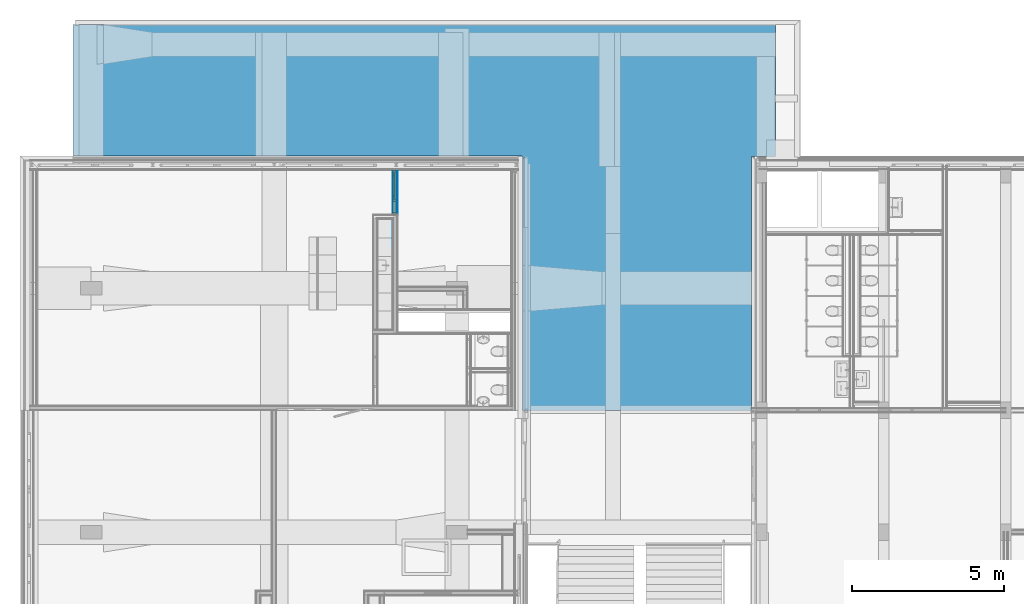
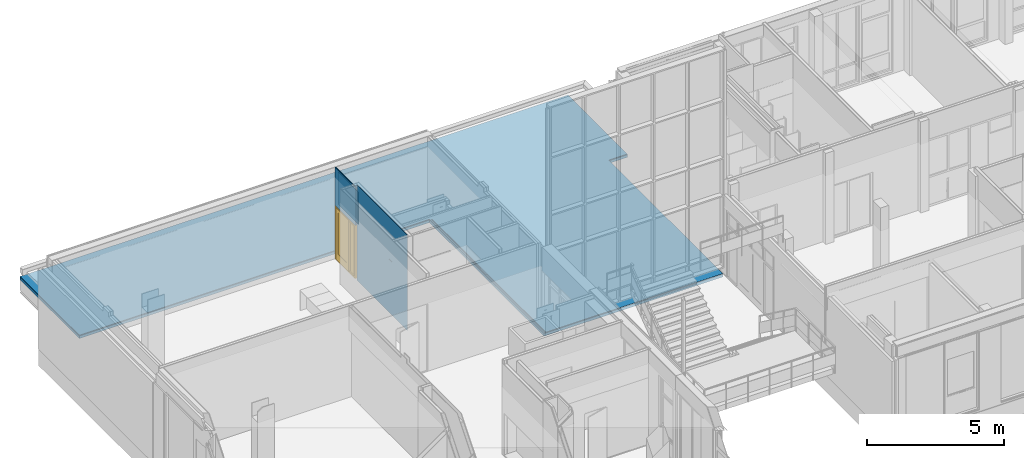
# One storey, part 48 of 94: 8 building element parts, 1 door, 1 opening, 3 elements without a shape of their own.
"""IFC2X3 building model written with IfcOpenShell, lengths in millimetres."""

from ifc_helpers import new_model, entity, si_unit, converted_unit, derived_unit, money_unit, direction, frame, origin_with_axes, place, context, subcontext, project, spatial, open_shell, faceted_brep, surface_model, material, type_object, element, fill, aggregate, save


model = new_model("IFC2X3")

# Units and contexts
model_context = context("Model", 3, precision=0.01, world=origin_with_axes(), true_north=direction((0.0, 1.0)))
body_context = subcontext(model_context, "Body", "Model", "MODEL_VIEW")
ifc_project = project(units=[si_unit("LENGTHUNIT", "METRE", prefix="MILLI"), si_unit("AREAUNIT", "SQUARE_METRE"), si_unit("VOLUMEUNIT", "CUBIC_METRE"), converted_unit("PLANEANGLEUNIT", "DEGREE", entity("IfcPlaneAngleMeasure", 0.0174532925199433), si_unit("PLANEANGLEUNIT", "RADIAN"), dimensions=[0, 0, 0, 0, 0, 0, 0]), money_unit("EUR"), converted_unit("TIMEUNIT", "Year", entity("IfcTimeMeasure", 31557600.0), si_unit("TIMEUNIT", "SECOND"), dimensions=[0, 0, 1, 0, 0, 0, 0]), si_unit("MASSUNIT", "GRAM", prefix="KILO"), si_unit("THERMODYNAMICTEMPERATUREUNIT", "DEGREE_CELSIUS"), si_unit("LUMINOUSINTENSITYUNIT", "LUMEN"), si_unit("ENERGYUNIT", "JOULE", prefix="MEGA"), derived_unit("THERMALCONDUCTANCEUNIT", [(si_unit("POWERUNIT", "WATT"), 1), (si_unit("LENGTHUNIT", "METRE"), -1), (si_unit("THERMODYNAMICTEMPERATUREUNIT", "KELVIN"), -1)]), derived_unit("SPECIFICHEATCAPACITYUNIT", [(si_unit("ENERGYUNIT", "JOULE"), 1), (si_unit("MASSUNIT", "GRAM", prefix="KILO"), -1), (si_unit("THERMODYNAMICTEMPERATUREUNIT", "KELVIN"), -1)]), derived_unit("MASSDENSITYUNIT", [(si_unit("MASSUNIT", "GRAM", prefix="KILO"), 1), (si_unit("VOLUMEUNIT", "CUBIC_METRE"), -1)])], contexts=[model_context])

# Site, building, storey
site_placement = place(None, origin_with_axes())
site = spatial("IfcSite", under=ifc_project, at=site_placement, Name="<site naam>", CompositionType="ELEMENT")
building_placement = place(site_placement, origin_with_axes())
building = spatial("IfcBuilding", under=site, at=building_placement, Name="<Naam gebouw>", CompositionType="ELEMENT")
storey_placement = place(building_placement, frame((0.0, 0.0, 4250.0), z_axis=(0.0, 0.0, 1.0), x_axis=(1.0, 0.0, 0.0)))
storey = spatial("IfcBuildingStorey", under=building, at=storey_placement, Name="01 1e verdieping", CompositionType="ELEMENT", Elevation=4250.0)

# Door
door_style = type_object("IfcDoorStyle", Name="D1 zl1-b 27", ConstructionType="NOTDEFINED", OperationType="SINGLE_SWING_RIGHT", ParameterTakesPrecedence=False, Sizeable=False)
wall_1_placement = place(storey_placement, frame((49.44245921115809, 19883.99999999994, 0.0), z_axis=(0.0, 0.0, 1.0), x_axis=(0.0, -1.0, 0.0)))
opening_placement = place(wall_1_placement, frame((733.2551979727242, 0.0, 0.0), z_axis=(0.0, 0.0, 1.0), x_axis=(1.0, 0.0, 0.0)))
door_placement = place(opening_placement, frame((733.2551979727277, 0.0, 0.0), z_axis=(0.0, 0.0, 1.0), x_axis=(-1.0, 0.0, 0.0)))
door = element("IfcDoor", 1, at=door_placement, inside=storey, type_object=door_style, Name="22_BI-C-03_305", ObjectType="DOOR", OverallHeight=2367.0, OverallWidth=1466.51, context=body_context, shape_type="SurfaceModel", body=[
    faceted_brep([(482.5103959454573, 120.0, 12.00000000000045), (499.5103959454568, 120.0, 12.00000000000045), (499.5103959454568, 45.99999999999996, 12.00000000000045), (1399.510395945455, 45.99999999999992, 11.99999999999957), (1399.510395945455, 119.9999999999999, 11.99999999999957), (1416.510395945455, 119.9999999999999, 11.99999999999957), (1416.510395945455, 159.9999999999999, 11.99999999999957), (482.5103959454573, 160.0, 12.00000000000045), (482.5103959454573, 120.0, 0.0), (499.5103959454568, 120.0, 0.0), (499.5103959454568, 45.99999999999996, 0.0), (1399.510395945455, 45.99999999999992, 0.0), (1399.510395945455, 119.9999999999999, 0.0), (1416.510395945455, 119.9999999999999, 0.0), (1416.510395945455, 159.9999999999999, 0.0), (482.5103959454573, 160.0, 0.0)], [[[0, 1, 2, 3, 4, 5, 6, 7]], [[1, 0, 8, 9]], [[10, 2, 1, 9]], [[2, 10, 11, 3]], [[3, 11, 12, 4]], [[5, 4, 12, 13]], [[13, 14, 6, 5]], [[15, 7, 6, 14]], [[8, 0, 7, 15]], [[9, 8, 15, 14, 13, 12, 11, 10]]]),
    faceted_brep([(0.0, 160.0000000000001, 0.0), (67.00000000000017, 160.0000000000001, 0.0), (67.00000000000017, 46.00000000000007, 0.0), (0.0, 46.00000000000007, 0.0), (0.0, 159.9999999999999, 2300.0), (67.00000000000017, 159.9999999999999, 2300.0), (67.00000000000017, 160.0000000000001, 67.00000000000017), (67.00000000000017, 46.00000000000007, 67.00000000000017), (67.00000000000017, 45.99999999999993, 2300.0), (0.0, 45.99999999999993, 2300.0)], [[[0, 1, 2, 3]], [[0, 4, 5, 6, 1]], [[1, 6, 7, 2]], [[3, 2, 7, 8, 9]], [[4, 0, 3, 9]], [[5, 4, 9, 8]], [[6, 5, 8, 7]]]),
    faceted_brep([(499.5103959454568, 105.0, 0.0), (499.5103959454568, 104.9999999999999, 2300.0), (499.5103959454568, 45.99999999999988, 2300.0), (499.5103959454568, 46.00000000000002, 0.0), (482.5103959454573, 104.9999999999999, 2300.0), (482.5103959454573, 105.0, 0.0), (482.5103959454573, 159.9999999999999, 2300.0), (432.5103959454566, 159.9999999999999, 2300.0), (432.5103959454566, 45.99999999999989, 2300.0), (432.5103959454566, 46.00000000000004, 0.0), (432.5103959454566, 46.00000000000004, 67.00000000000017), (432.5103959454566, 160.0, 0.0), (482.5103959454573, 160.0, 0.0), (432.5103959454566, 160.0, 67.00000000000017)], [[[0, 1, 2, 3]], [[4, 1, 0, 5]], [[4, 6, 7, 8, 2, 1]], [[9, 3, 2, 8, 10]], [[5, 0, 3, 9, 11, 12]], [[6, 4, 5, 12]], [[6, 12, 11, 13, 7]], [[13, 10, 8, 7]], [[11, 9, 10, 13]]]),
    faceted_brep([(67.00000000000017, 160.0000000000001, 67.00000000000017), (67.00000000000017, 160.0000000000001, 0.0), (67.00000000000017, 46.00000000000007, 0.0), (67.00000000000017, 46.00000000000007, 67.00000000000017), (432.5103959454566, 160.0, 67.00000000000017), (432.5103959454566, 160.0, 0.0), (432.5103959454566, 46.00000000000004, 0.0), (432.5103959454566, 46.00000000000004, 67.00000000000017)], [[[0, 1, 2, 3]], [[0, 4, 5, 1]], [[1, 5, 6, 2]], [[3, 2, 6, 7]], [[4, 0, 3, 7]], [[5, 4, 7, 6]]]),
    faceted_brep([(1416.510395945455, 104.9999999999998, 2300.0), (1399.510395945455, 104.9999999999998, 2300.0), (1399.510395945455, 45.99999999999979, 2300.0), (1466.510395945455, 45.99999999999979, 2300.0), (1466.510395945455, 159.9999999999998, 2300.0), (1416.510395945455, 159.9999999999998, 2300.0), (1416.510395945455, 104.9999999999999, 0.0), (1399.510395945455, 104.9999999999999, 0.0), (1399.510395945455, 45.99999999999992, 0.0), (1466.510395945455, 45.99999999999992, 0.0), (1466.510395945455, 159.9999999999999, 0.0), (1416.510395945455, 159.9999999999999, 0.0)], [[[0, 1, 2, 3, 4, 5]], [[1, 0, 6, 7]], [[1, 7, 8, 2]], [[3, 2, 8, 9]], [[4, 3, 9, 10]], [[11, 5, 4, 10]], [[0, 5, 11, 6]], [[6, 11, 10, 9, 8, 7]]]),
    faceted_brep([(482.5103959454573, 159.9999999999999, 2317.0), (482.5103959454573, 159.9999999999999, 2300.0), (432.5103959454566, 159.9999999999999, 2300.0), (67.00000000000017, 159.9999999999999, 2300.0), (0.0, 159.9999999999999, 2300.0), (0.0, 159.9999999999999, 2367.0), (1466.510395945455, 159.9999999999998, 2367.0), (1466.510395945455, 159.9999999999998, 2300.0), (1416.510395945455, 159.9999999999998, 2300.0), (1416.510395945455, 159.9999999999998, 2317.0), (482.5103959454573, 104.9999999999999, 2317.0), (482.5103959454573, 104.9999999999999, 2300.0), (1399.510395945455, 104.9999999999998, 2300.0), (1399.510395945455, 45.99999999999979, 2300.0), (499.5103959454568, 45.99999999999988, 2300.0), (432.5103959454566, 45.99999999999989, 2300.0), (67.00000000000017, 45.99999999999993, 2300.0), (0.0, 45.99999999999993, 2300.0), (0.0, 45.99999999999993, 2367.0), (1466.510395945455, 45.99999999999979, 2367.0), (1466.510395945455, 45.99999999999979, 2300.0), (1416.510395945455, 104.9999999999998, 2300.0), (1416.510395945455, 104.9999999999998, 2317.0)], [[[0, 1, 2, 3, 4, 5, 6, 7, 8, 9]], [[1, 0, 10, 11]], [[11, 12, 13, 14, 15, 2, 1]], [[2, 15, 16, 3]], [[3, 16, 17, 4]], [[4, 17, 18, 5]], [[5, 18, 19, 6]], [[6, 19, 20, 7]], [[21, 8, 7, 20, 13, 12]], [[9, 8, 21, 22]], [[0, 9, 22, 10]], [[21, 12, 11, 10, 22]], [[13, 20, 19, 18, 17, 16, 15, 14]]]),
    faceted_brep([(1416.510395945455, 144.9999999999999, 312.0000000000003), (1416.510395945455, 104.9999999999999, 312.0000000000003), (1266.510395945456, 104.9999999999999, 312.0000000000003), (1266.510395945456, 144.9999999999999, 312.0000000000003), (1416.510395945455, 144.9999999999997, 2167.0), (1416.510395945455, 104.9999999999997, 2167.0), (1266.510395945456, 104.9999999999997, 2167.0), (1266.510395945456, 144.9999999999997, 2167.0)], [[[0, 1, 2, 3]], [[4, 5, 1, 0]], [[1, 5, 6, 2]], [[3, 2, 6, 7]], [[0, 3, 7, 4]], [[7, 6, 5, 4]]]),
    faceted_brep([(482.5103959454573, 145.0, 312.0000000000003), (482.5103959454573, 105.0, 312.0000000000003), (482.5103959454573, 104.9999999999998, 2167.0), (482.5103959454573, 144.9999999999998, 2167.0), (632.5103959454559, 145.0, 312.0000000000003), (632.5103959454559, 105.0, 312.0000000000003), (632.5103959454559, 104.9999999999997, 2167.0), (632.5103959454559, 144.9999999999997, 2167.0)], [[[0, 1, 2, 3]], [[4, 5, 1, 0]], [[1, 5, 6, 2]], [[3, 2, 6, 7]], [[0, 3, 7, 4]], [[7, 6, 5, 4]]]),
    faceted_brep([(1416.510395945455, 144.9999999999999, 11.99999999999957), (1416.510395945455, 104.9999999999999, 11.99999999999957), (482.5103959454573, 105.0, 11.99999999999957), (482.5103959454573, 145.0000000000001, 11.99999999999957), (1416.510395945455, 144.9999999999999, 312.0000000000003), (1416.510395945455, 104.9999999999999, 312.0000000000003), (1266.510395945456, 104.9999999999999, 312.0000000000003), (632.5103959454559, 105.0, 312.0000000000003), (482.5103959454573, 105.0, 312.0000000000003), (482.5103959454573, 145.0, 312.0000000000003), (632.5103959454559, 145.0, 312.0000000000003), (1266.510395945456, 144.9999999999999, 312.0000000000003)], [[[0, 1, 2, 3]], [[4, 5, 1, 0]], [[1, 5, 6, 7, 8, 2]], [[3, 2, 8, 9]], [[0, 3, 9, 10, 11, 4]], [[11, 6, 5, 4]], [[10, 7, 6, 11]], [[9, 8, 7, 10]]]),
    faceted_brep([(1416.510395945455, 144.9999999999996, 2317.0), (1416.510395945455, 104.9999999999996, 2317.0), (1416.510395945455, 104.9999999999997, 2167.0), (1416.510395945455, 144.9999999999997, 2167.0), (482.5103959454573, 144.9999999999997, 2317.0), (482.5103959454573, 104.9999999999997, 2317.0), (482.5103959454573, 104.9999999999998, 2167.0), (632.5103959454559, 104.9999999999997, 2167.0), (1266.510395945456, 104.9999999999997, 2167.0), (1266.510395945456, 144.9999999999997, 2167.0), (632.5103959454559, 144.9999999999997, 2167.0), (482.5103959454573, 144.9999999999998, 2167.0)], [[[0, 1, 2, 3]], [[4, 5, 1, 0]], [[1, 5, 6, 7, 8, 2]], [[3, 2, 8, 9]], [[0, 3, 9, 10, 11, 4]], [[11, 6, 5, 4]], [[10, 7, 6, 11]], [[9, 8, 7, 10]]]),
    surface_model("IfcShellBasedSurfaceModel", [(1266.510395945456, 130.9999999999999, 312.0000000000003), (632.5103959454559, 131.0, 312.0000000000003), (632.5103959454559, 130.9999999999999, 2167.0), (1266.510395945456, 130.9999999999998, 2167.0)], [open_shell([[[0, 1, 2, 3]]])]),
    surface_model("IfcShellBasedSurfaceModel", [(1266.510395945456, 118.9999999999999, 312.0000000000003), (1266.510395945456, 118.9999999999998, 2167.0), (632.5103959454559, 118.9999999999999, 2167.0), (632.5103959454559, 119.0, 312.0000000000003)], [open_shell([[[0, 1, 2, 3]]])]),
    surface_model("IfcShellBasedSurfaceModel", [(67.00000000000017, 106.0000000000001, 67.00000000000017), (67.00000000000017, 105.9999999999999, 2300.000000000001), (432.5103959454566, 105.9999999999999, 2300.000000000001), (432.5103959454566, 106.0, 67.00000000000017)], [open_shell([[[0, 1, 2, 3]]])]),
    surface_model("IfcShellBasedSurfaceModel", [(67.00000000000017, 94.00000000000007, 67.00000000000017), (432.5103959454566, 94.00000000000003, 67.00000000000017), (432.5103959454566, 93.99999999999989, 2300.000000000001), (67.00000000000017, 93.99999999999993, 2300.000000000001)], [open_shell([[[0, 1, 2, 3]]])]),
])

# Wall, opening
wall_type = type_object("IfcWallType", Name="MS-01 GF 150 ECO DGS/2.100.2.A 150", PredefinedType="NOTDEFINED")
wall_1 = element("IfcWall", 2, at=wall_1_placement, inside=storey, type_object=wall_type, Name="22_Binnenwand_MS-01")
opening = element("IfcOpeningElement", 3, at=opening_placement, cuts=wall_1, Name="22_BI-C-03_305", context=body_context, shape_type="Brep", body=[
    faceted_brep([(733.2551979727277, 1.000000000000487, 2367.0), (733.2551979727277, 1.000000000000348, 0.0), (-733.2551979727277, 1.000000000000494, 0.0), (-733.2551979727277, 1.000000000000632, 2367.0), (733.2551979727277, -151.0000000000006, 2367.0), (733.2551979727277, -151.0000000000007, 0.0), (-733.2551979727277, -151.0000000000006, 0.0), (-733.2551979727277, -151.0000000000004, 2367.0)], [[[0, 1, 2, 3]], [[4, 5, 1, 0]], [[5, 6, 2, 1]], [[6, 7, 3, 2]], [[7, 4, 0, 3]], [[6, 5, 4, 7]]]),
])

fill(opening, door)

# Building element part
ifc_material_1 = material(Name="gipsplaat")
building_element_part_1_placement = place(wall_1_placement, origin_with_axes())
building_element_part_1 = element("IfcBuildingElementPart", 4, at=building_element_part_1_placement, material=ifc_material_1, Name="gipsplaat", context=body_context, shape_type="Brep", body=[
    faceted_brep([(0.0, -12.50000000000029, 3809.999755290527), (0.0, 0.0, 3809.999755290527), (0.0, 0.0, 3.000000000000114), (0.0, -12.50000000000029, 3.000000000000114), (1466.503302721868, 0.0, 3809.999755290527), (1466.50341363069, -12.49999999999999, 3809.999755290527), (1466.503302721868, 0.0, 3.000000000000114), (1466.503317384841, -1.652593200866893, 3.000000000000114), (1466.490629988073, -12.49999999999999, 3.000000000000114), (1466.490629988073, -12.49999999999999, 0.0), (1466.50341363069, -12.49999999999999, 0.0), (1466.503317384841, -1.652593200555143, 0.0)], [[[0, 1, 2, 3]], [[4, 1, 0, 5]], [[1, 4, 6, 2]], [[7, 8, 3, 2, 6]], [[5, 0, 3, 8, 9, 10]], [[4, 5, 10, 11, 7, 6]], [[9, 8, 7, 11]], [[11, 10, 9]]]),
])

ifc_material_2 = material(Name="isolatie_steenwol LSW")
building_element_part_2_placement = place(wall_1_placement, origin_with_axes())
building_element_part_2 = element("IfcBuildingElementPart", 5, at=building_element_part_2_placement, material=ifc_material_2, Name="isolatie_steenwol LSW", context=body_context, shape_type="Brep", body=[
    faceted_brep([(0.0, -105.9424621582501, 4070.000000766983), (0.0, -105.9424621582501, 3809.999755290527), (0.0, -24.99999999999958, 3809.999755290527), (0.0, -24.99999999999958, 3.000000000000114), (0.0, -44.28473296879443, 3.000000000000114), (0.0, -44.28473296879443, 0.0), (0.0, -125.0000000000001, 0.0), (0.0, -124.9999999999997, 4070.000000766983), (1466.504242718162, -105.9424621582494, 4070.000000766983), (1466.504242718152, -105.9424621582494, 3809.999755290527), (1466.503524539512, -24.99999999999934, 3809.999755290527), (1466.503524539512, -25.00000000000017, 0.0), (1466.476009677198, -25.00000000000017, 0.0), (1466.476009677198, -25.00000000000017, 3.000000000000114), (1466.451447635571, -45.99993105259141, 3.000000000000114), (1466.451447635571, -45.99993105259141, 0.0), (1466.504411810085, -124.9999999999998, 0.0), (1466.504411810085, -124.9999999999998, 4070.000000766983)], [[[0, 1, 2, 3, 4, 5, 6, 7]], [[1, 0, 8, 9]], [[10, 2, 1, 9]], [[2, 10, 11, 12, 13, 3]], [[13, 14, 4, 3]], [[14, 15, 5, 4]], [[6, 5, 15, 12, 11, 16]], [[16, 17, 7, 6]], [[8, 0, 7, 17]], [[9, 8, 17, 16, 11, 10]], [[15, 14, 13, 12]]]),
])

building_element_part_3_placement = place(wall_1_placement, origin_with_axes())
building_element_part_3 = element("IfcBuildingElementPart", 6, at=building_element_part_3_placement, material=ifc_material_1, Name="gipsplaat", context=body_context, shape_type="Brep", body=[
    faceted_brep([(0.0, -24.99999999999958, 3809.999755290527), (0.0, -12.50000000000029, 3809.999755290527), (0.0, -12.50000000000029, 3.000000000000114), (0.0, -24.99999999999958, 3.000000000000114), (1466.50341363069, -12.49999999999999, 3809.999755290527), (1466.503524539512, -24.99999999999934, 3809.999755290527), (1466.50341363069, -12.49999999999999, 0.0), (1466.490629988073, -12.49999999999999, 0.0), (1466.490629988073, -12.49999999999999, 3.000000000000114), (1466.476009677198, -25.00000000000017, 3.000000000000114), (1466.476009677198, -25.00000000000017, 0.0), (1466.503524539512, -25.00000000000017, 0.0)], [[[0, 1, 2, 3]], [[4, 1, 0, 5]], [[1, 4, 6, 7, 8, 2]], [[8, 9, 3, 2]], [[5, 0, 3, 9, 10, 11]], [[4, 5, 11, 6]], [[6, 11, 10, 7]], [[10, 9, 8, 7]]]),
])

building_element_part_4_placement = place(wall_1_placement, origin_with_axes())
building_element_part_4 = element("IfcBuildingElementPart", 7, at=building_element_part_4_placement, material=ifc_material_1, Name="gipsplaat", context=body_context, shape_type="Brep", body=[
    faceted_brep([(0.0, -149.9999999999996, 4070.000000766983), (0.0, -137.4999999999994, 4070.000000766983), (0.0, -137.5000000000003, 0.0), (0.0, -149.9999999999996, 0.0), (1466.504522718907, -137.5, 4070.000000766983), (1466.504633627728, -149.9999999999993, 4070.000000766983), (1466.504522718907, -137.5, 0.0), (1466.504633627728, -150.0000000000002, 0.0)], [[[0, 1, 2, 3]], [[4, 1, 0, 5]], [[1, 4, 6, 2]], [[2, 6, 7, 3]], [[5, 0, 3, 7]], [[4, 5, 7, 6]]]),
])

building_element_part_5_placement = place(wall_1_placement, origin_with_axes())
building_element_part_5 = element("IfcBuildingElementPart", 8, at=building_element_part_5_placement, material=ifc_material_1, Name="gipsplaat", context=body_context, shape_type="Brep", body=[
    faceted_brep([(0.0, -137.4999999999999, 4070.000000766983), (0.0, -124.9999999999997, 4070.000000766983), (0.0, -125.0000000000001, 0.0), (0.0, -137.4999999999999, 0.0), (1466.504411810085, -124.9999999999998, 4070.000000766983), (1466.504522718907, -137.4999999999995, 4070.000000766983), (1466.504411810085, -124.9999999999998, 0.0), (1466.504522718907, -137.5, 0.0)], [[[0, 1, 2, 3]], [[4, 1, 0, 5]], [[1, 4, 6, 2]], [[2, 6, 7, 3]], [[5, 0, 3, 7]], [[4, 5, 7, 6]]]),
])

aggregate(wall_1, [building_element_part_1, building_element_part_2, building_element_part_3, building_element_part_4, building_element_part_5])

# Slab, building element parts
slab_type = type_object("IfcSlabType", Name="betonvloer-kurk 150 150", PredefinedType="NOTDEFINED")
slab_placement = place(storey_placement, frame((-10604.07537140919, 24650.00000000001, 0.0), z_axis=(0.0, 0.0, 1.0), x_axis=(1.0, 0.0, 0.0)))
slab = element("IfcSlab", 9, at=slab_placement, inside=storey, type_object=slab_type, Name="27_Vloer_betonvloer-kurk", PredefinedType="NOTDEFINED")
ifc_material_3 = material(Name="cement")
building_element_part_6_placement = place(slab_placement, origin_with_axes())
building_element_part_6 = element("IfcBuildingElementPart", 10, at=building_element_part_6_placement, material=ifc_material_3, Name="cement", context=body_context, shape_type="Brep", body=[
    faceted_brep([(14819.11983925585, -12649.99999999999, 0.0), (22269.07537140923, -12649.99999999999, 0.0), (22269.07537140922, -4325.000002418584, 0.0), (23054.07538435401, -4325.000002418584, 0.0), (23054.07538435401, 0.0, 0.0), (0.0, 0.0, 0.0), (0.0, -4314.999999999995, 0.0), (14735.0, -4315.00000000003, 0.0), (14735.0, -12649.99999999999, 0.0), (14779.11983241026, -12649.99999999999, 0.0), (14779.11983241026, -4374.999999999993, 0.0), (14819.11983925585, -4374.999999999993, 0.0), (14939.11983714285, -12649.99999999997, -10.0000023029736), (14939.11983714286, -12649.99999999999, -30.00000000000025), (22269.07537140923, -12649.99999999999, -30.00000000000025), (14819.11983925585, -12649.99999999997, -10.0000023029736), (22269.07537140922, -4325.000002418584, -30.00000000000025), (23054.07538435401, -4325.000002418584, -30.00000000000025), (23054.07538435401, 0.0, -30.00000000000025), (0.0, 0.0, -30.00000000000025), (0.0, -4314.999999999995, -30.00000000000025), (14735.0, -4315.00000000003, -30.00000000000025), (14735.0, -12649.99999999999, -30.00000000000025), (14779.11983241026, -12649.99999999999, -30.00000000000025), (14779.11983241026, -4374.999999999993, -30.00000000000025), (14939.11983714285, -4374.999999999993, -30.00000000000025), (14939.11983714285, -4374.999999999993, -10.0000023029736), (14819.11983925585, -4374.999999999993, -10.0000023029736)], [[[0, 1, 2, 3, 4, 5, 6, 7, 8, 9, 10, 11]], [[12, 13, 14, 1, 0, 15]], [[14, 16, 2, 1]], [[16, 17, 3, 2]], [[17, 18, 4, 3]], [[18, 19, 5, 4]], [[19, 20, 6, 5]], [[20, 21, 7, 6]], [[21, 22, 8, 7]], [[23, 9, 8, 22]], [[10, 9, 23, 24]], [[24, 25, 26, 27, 11, 10]], [[15, 0, 11, 27]], [[25, 13, 12, 26]], [[13, 25, 24, 23, 22, 21, 20, 19, 18, 17, 16, 14]], [[26, 12, 15, 27]]]),
])
ifc_material_4 = material(Name="beton_gewapend_vloer C")
building_element_part_7_placement = place(slab_placement, origin_with_axes())
building_element_part_7 = element("IfcBuildingElementPart", 11, at=building_element_part_7_placement, material=ifc_material_4, Name="beton_gewapend_vloer C", context=body_context, shape_type="Brep", body=[
    faceted_brep([(0.0, 0.0, -150.0000000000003), (0.0, -4314.999999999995, -150.0000000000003), (0.0, -4314.999999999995, -30.00000000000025), (0.0, 0.0, -30.00000000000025), (23054.07538435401, 0.0, -150.0000000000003), (23054.07538435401, -4325.000002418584, -150.0000000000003), (22269.07537140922, -4325.000002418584, -150.0000000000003), (22269.07537140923, -12649.99999999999, -150.0000000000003), (14735.0, -12649.99999999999, -150.0000000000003), (14735.0, -4315.00000000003, -150.0000000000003), (14735.0, -4315.00000000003, -30.00000000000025), (14735.0, -12649.99999999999, -30.00000000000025), (22269.07537140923, -12649.99999999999, -30.00000000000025), (22269.07537140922, -4325.000002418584, -30.00000000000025), (23054.07538435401, -4325.000002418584, -30.00000000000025), (23054.07538435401, 0.0, -30.00000000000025)], [[[0, 1, 2, 3]], [[0, 4, 5, 6, 7, 8, 9, 1]], [[1, 9, 10, 2]], [[3, 2, 10, 11, 12, 13, 14, 15]], [[4, 0, 3, 15]], [[5, 4, 15, 14]], [[6, 5, 14, 13]], [[7, 6, 13, 12]], [[8, 7, 12, 11]], [[9, 8, 11, 10]]]),
])
aggregate(slab, [building_element_part_6, building_element_part_7])

# Wall, building element part
wall_2_placement = place(storey_placement, frame((49.46373943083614, 18267.49669746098, 0.0), z_axis=(0.0, 0.0, 1.0), x_axis=(0.0001418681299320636, -0.9999999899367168, 0.0)))
wall_2 = element("IfcWall", 12, at=wall_2_placement, inside=storey, type_object=wall_type, Name="22_Binnenwand_MS-01")
building_element_part_8_placement = place(wall_2_placement, origin_with_axes())
building_element_part_8 = element("IfcBuildingElementPart", 13, at=building_element_part_8_placement, material=ifc_material_1, Name="gipsplaat", context=body_context, shape_type="Brep", body=[
    faceted_brep([(-0.01431604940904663, -149.9999999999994, 3.000000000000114), (-0.01431605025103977, -149.9999999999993, 0.0), (3642.475484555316, -150.0000000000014, 0.0), (3642.475484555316, -150.0000000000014, 4250.0), (-12.51994942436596, -149.9999999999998, 4250.0), (-12.51994942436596, -149.9999999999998, 3.000000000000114), (0.1848331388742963, -150.0000000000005, 2367.0), (0.1848331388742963, -150.0000000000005, 2377.0), (3630.176544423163, -150.0000000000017, 2377.0), (3630.176544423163, -150.0000000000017, 2367.0), (-12.51994799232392, -149.9892324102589, 3.000000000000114), (-12.51994799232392, -149.9892324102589, 0.0), (-12.51828698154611, -137.5000000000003, 0.0), (3642.477257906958, -137.5000000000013, 0.0), (3642.477257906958, -137.5000000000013, 4250.0), (-12.51828698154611, -137.4999999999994, 4250.0), (0.1849697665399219, -149.0369389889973, 2367.0), (0.1849697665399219, -149.0369389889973, 2377.0), (3630.17660799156, -149.5519191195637, 2377.0), (3630.17660799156, -149.5519191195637, 2367.0)], [[[0, 1, 2, 3, 4, 5], [6, 7, 8, 9]], [[10, 11, 1, 0]], [[1, 11, 12, 13, 2]], [[2, 13, 14, 3]], [[3, 14, 15, 4]], [[10, 5, 4, 15, 12, 11]], [[5, 10, 0]], [[7, 6, 16, 17]], [[8, 7, 17, 18]], [[9, 8, 18, 19]], [[6, 9, 19, 16]], [[14, 13, 12, 15]], [[19, 18, 17, 16]]]),
])
aggregate(wall_2, [building_element_part_8])

save(model, "model.ifc")
